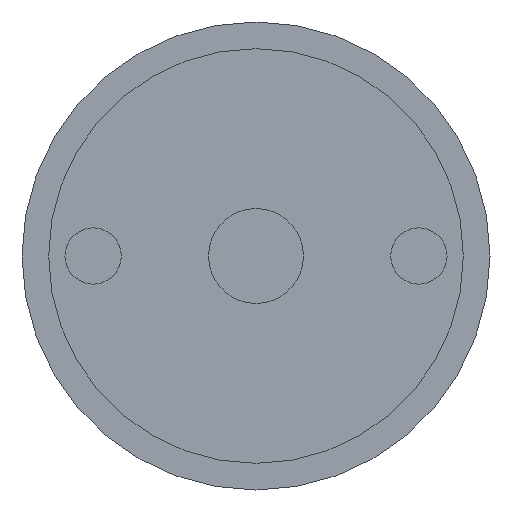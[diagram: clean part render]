
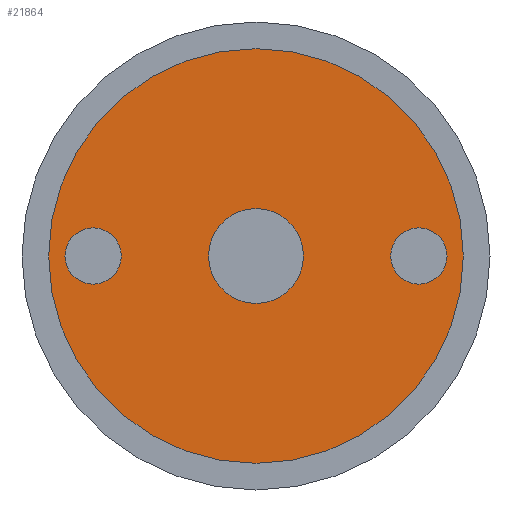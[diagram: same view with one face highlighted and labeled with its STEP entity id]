
A CAD part, front view. The second image highlights one B-rep face of the part: STEP entity #21864.
In plain terms, the highlighted planar face has unit normal (0, -1, 0).
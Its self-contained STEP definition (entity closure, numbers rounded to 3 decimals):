
#1094 = EDGE_CURVE ( 'NONE', #13727, #17050, #20195, .T. ) ;
#1142 = CIRCLE ( 'NONE', #13988, 4.75 ) ;
#1221 = CIRCLE ( 'NONE', #7878, 4.75 ) ;
#1687 = ORIENTED_EDGE ( 'NONE', *, *, #14842, .T. ) ;
#2232 = CARTESIAN_POINT ( 'NONE',  ( 0., -14.096, 0. ) ) ;
#2843 = DIRECTION ( 'NONE',  ( 0., -1., 0. ) ) ;
#2983 = ORIENTED_EDGE ( 'NONE', *, *, #19427, .F. ) ;
#3910 = AXIS2_PLACEMENT_3D ( 'NONE', #17136, #6688, #18887 ) ;
#3983 = DIRECTION ( 'NONE',  ( -1., 0., 0. ) ) ;
#3990 = DIRECTION ( 'NONE',  ( 0., 1., 0. ) ) ;
#4903 = EDGE_LOOP ( 'NONE', ( #17078, #8136 ) ) ;
#4956 = ORIENTED_EDGE ( 'NONE', *, *, #1094, .F. ) ;
#5022 = CIRCLE ( 'NONE', #9752, 4.75 ) ;
#6688 = DIRECTION ( 'NONE',  ( 0., 1., 0. ) ) ;
#6699 = FACE_BOUND ( 'NONE', #4903, .T. ) ;
#6834 = DIRECTION ( 'NONE',  ( 0., 1., 0. ) ) ;
#7103 = CARTESIAN_POINT ( 'NONE',  ( -27.5, -14.096, 4.75 ) ) ;
#7406 = EDGE_CURVE ( 'NONE', #10439, #9167, #15659, .T. ) ;
#7582 = CARTESIAN_POINT ( 'NONE',  ( 27.5, -14.096, 4.75 ) ) ;
#7631 = DIRECTION ( 'NONE',  ( 0., -1., 0. ) ) ;
#7878 = AXIS2_PLACEMENT_3D ( 'NONE', #14404, #3990, #16151 ) ;
#7915 = AXIS2_PLACEMENT_3D ( 'NONE', #20428, #9977, #22151 ) ;
#8026 = AXIS2_PLACEMENT_3D ( 'NONE', #10146, #22331, #11905 ) ;
#8136 = ORIENTED_EDGE ( 'NONE', *, *, #13878, .T. ) ;
#8615 = VERTEX_POINT ( 'NONE', #7103 ) ;
#9167 = VERTEX_POINT ( 'NONE', #14575 ) ;
#9371 = EDGE_CURVE ( 'NONE', #22474, #8615, #5022, .T. ) ;
#9413 = AXIS2_PLACEMENT_3D ( 'NONE', #13268, #2843, #15015 ) ;
#9752 = AXIS2_PLACEMENT_3D ( 'NONE', #20407, #9954, #22133 ) ;
#9954 = DIRECTION ( 'NONE',  ( 0., 1., 0. ) ) ;
#9977 = DIRECTION ( 'NONE',  ( 0., -1., 0. ) ) ;
#10146 = CARTESIAN_POINT ( 'NONE',  ( 0., -14.096, 0. ) ) ;
#10439 = VERTEX_POINT ( 'NONE', #22092 ) ;
#10783 = FACE_OUTER_BOUND ( 'NONE', #11534, .T. ) ;
#11344 = FACE_BOUND ( 'NONE', #13711, .T. ) ;
#11534 = EDGE_LOOP ( 'NONE', ( #21909, #1687 ) ) ;
#11905 = DIRECTION ( 'NONE',  ( -1., 0., 0. ) ) ;
#12122 = CARTESIAN_POINT ( 'NONE',  ( -27.5, -14.096, -4.75 ) ) ;
#13268 = CARTESIAN_POINT ( 'NONE',  ( -15., -14.096, 0. ) ) ;
#13453 = VERTEX_POINT ( 'NONE', #13928 ) ;
#13711 = EDGE_LOOP ( 'NONE', ( #21687, #14914 ) ) ;
#13727 = VERTEX_POINT ( 'NONE', #21571 ) ;
#13878 = EDGE_CURVE ( 'NONE', #17640, #13453, #1221, .T. ) ;
#13928 = CARTESIAN_POINT ( 'NONE',  ( 27.5, -14.096, -4.75 ) ) ;
#13935 = CIRCLE ( 'NONE', #8026, 35. ) ;
#13988 = AXIS2_PLACEMENT_3D ( 'NONE', #17272, #6834, #19055 ) ;
#14396 = DIRECTION ( 'NONE',  ( 0., -1., 0. ) ) ;
#14404 = CARTESIAN_POINT ( 'NONE',  ( 27.5, -14.096, 0. ) ) ;
#14575 = CARTESIAN_POINT ( 'NONE',  ( 35., -14.096, 0. ) ) ;
#14842 = EDGE_CURVE ( 'NONE', #9167, #10439, #13935, .T. ) ;
#14914 = ORIENTED_EDGE ( 'NONE', *, *, #18101, .T. ) ;
#15015 = DIRECTION ( 'NONE',  ( -1., 0., 0. ) ) ;
#15497 = EDGE_CURVE ( 'NONE', #13453, #17640, #19384, .T. ) ;
#15659 = CIRCLE ( 'NONE', #19658, 35. ) ;
#15934 = FACE_BOUND ( 'NONE', #19731, .T. ) ;
#16151 = DIRECTION ( 'NONE',  ( -1., 0., 0. ) ) ;
#17050 = VERTEX_POINT ( 'NONE', #21891 ) ;
#17078 = ORIENTED_EDGE ( 'NONE', *, *, #15497, .T. ) ;
#17136 = CARTESIAN_POINT ( 'NONE',  ( 27.5, -14.096, 0. ) ) ;
#17272 = CARTESIAN_POINT ( 'NONE',  ( -27.5, -14.096, 0. ) ) ;
#17640 = VERTEX_POINT ( 'NONE', #7582 ) ;
#18039 = CARTESIAN_POINT ( 'NONE',  ( 0., -14.096, 0. ) ) ;
#18101 = EDGE_CURVE ( 'NONE', #8615, #22474, #1142, .T. ) ;
#18887 = DIRECTION ( 'NONE',  ( -1., 0., 0. ) ) ;
#19055 = DIRECTION ( 'NONE',  ( -1., 0., 0. ) ) ;
#19384 = CIRCLE ( 'NONE', #3910, 4.75 ) ;
#19427 = EDGE_CURVE ( 'NONE', #17050, #13727, #20156, .T. ) ;
#19658 = AXIS2_PLACEMENT_3D ( 'NONE', #18039, #7631, #19830 ) ;
#19731 = EDGE_LOOP ( 'NONE', ( #2983, #4956 ) ) ;
#19830 = DIRECTION ( 'NONE',  ( -1., 0., 0. ) ) ;
#20156 = CIRCLE ( 'NONE', #21508, 8. ) ;
#20159 = PLANE ( 'NONE',  #9413 ) ;
#20195 = CIRCLE ( 'NONE', #7915, 8. ) ;
#20407 = CARTESIAN_POINT ( 'NONE',  ( -27.5, -14.096, 0. ) ) ;
#20428 = CARTESIAN_POINT ( 'NONE',  ( 0., -14.096, 0. ) ) ;
#21508 = AXIS2_PLACEMENT_3D ( 'NONE', #2232, #14396, #3983 ) ;
#21571 = CARTESIAN_POINT ( 'NONE',  ( 8., -14.096, 0. ) ) ;
#21687 = ORIENTED_EDGE ( 'NONE', *, *, #9371, .T. ) ;
#21864 = ADVANCED_FACE ( 'NONE', ( #11344, #6699, #15934, #10783 ), #20159, .T. ) ;
#21891 = CARTESIAN_POINT ( 'NONE',  ( -8., -14.096, 0. ) ) ;
#21909 = ORIENTED_EDGE ( 'NONE', *, *, #7406, .T. ) ;
#22092 = CARTESIAN_POINT ( 'NONE',  ( -35., -14.096, 0. ) ) ;
#22133 = DIRECTION ( 'NONE',  ( -1., 0., 0. ) ) ;
#22151 = DIRECTION ( 'NONE',  ( -1., 0., 0. ) ) ;
#22331 = DIRECTION ( 'NONE',  ( 0., -1., 0. ) ) ;
#22474 = VERTEX_POINT ( 'NONE', #12122 ) ;
